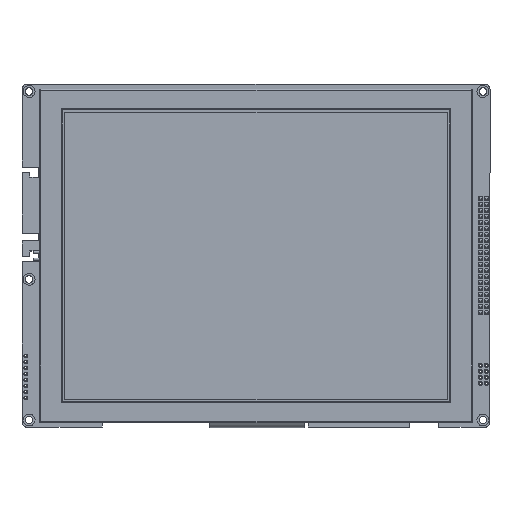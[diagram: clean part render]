
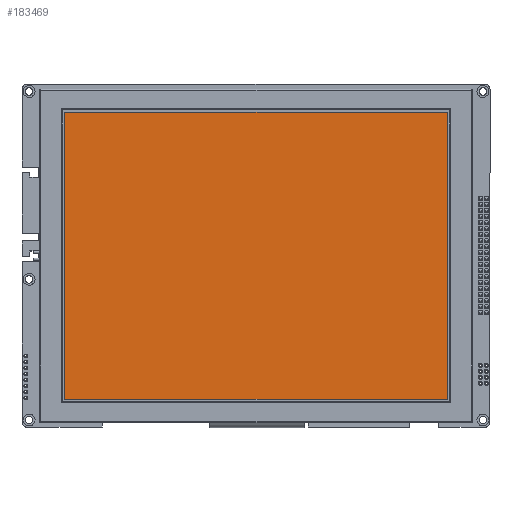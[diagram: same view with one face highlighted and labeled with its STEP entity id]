
A CAD part, top view. The second image highlights one B-rep face of the part: STEP entity #183469.
In plain terms, the highlighted planar face has unit normal (0, 0, 1).
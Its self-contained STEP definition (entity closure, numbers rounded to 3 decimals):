
#9492 = CARTESIAN_POINT ( 'NONE',  ( 0., 60.75, 5.2 ) ) ;
#10092 = FACE_OUTER_BOUND ( 'NONE', #180545, .T. ) ;
#14475 = PLANE ( 'NONE',  #230509 ) ;
#52182 = DIRECTION ( 'NONE',  ( 0., 0., 1. ) ) ;
#53742 = ORIENTED_EDGE ( 'NONE', *, *, #420605, .F. ) ;
#64211 = ORIENTED_EDGE ( 'NONE', *, *, #438286, .F. ) ;
#77144 = DIRECTION ( 'NONE',  ( -1., 0., 0. ) ) ;
#114126 = EDGE_CURVE ( 'NONE', #343438, #259550, #345796, .T. ) ;
#140751 = CARTESIAN_POINT ( 'NONE',  ( 81., 0., 5.2 ) ) ;
#174511 = LINE ( 'NONE', #9492, #322346 ) ;
#180545 = EDGE_LOOP ( 'NONE', ( #53742, #291638, #361387, #64211 ) ) ;
#183469 = ADVANCED_FACE ( 'NONE', ( #10092 ), #14475, .T. ) ;
#210148 = DIRECTION ( 'NONE',  ( 1., 0., 0. ) ) ;
#213197 = CARTESIAN_POINT ( 'NONE',  ( 0., -60.75, 5.2 ) ) ;
#230509 = AXIS2_PLACEMENT_3D ( 'NONE', #393183, #52182, #290906 ) ;
#241468 = VECTOR ( 'NONE', #77144, 1000. ) ;
#247871 = DIRECTION ( 'NONE',  ( 0., 1., 0. ) ) ;
#259550 = VERTEX_POINT ( 'NONE', #281951 ) ;
#276940 = CARTESIAN_POINT ( 'NONE',  ( -81., 0., 5.2 ) ) ;
#281951 = CARTESIAN_POINT ( 'NONE',  ( -81., 60.75, 5.2 ) ) ;
#282365 = LINE ( 'NONE', #213197, #241468 ) ;
#290906 = DIRECTION ( 'NONE',  ( 1., 0., 0. ) ) ;
#291638 = ORIENTED_EDGE ( 'NONE', *, *, #431932, .F. ) ;
#318296 = CARTESIAN_POINT ( 'NONE',  ( 81., -60.75, 5.2 ) ) ;
#322346 = VECTOR ( 'NONE', #210148, 1000. ) ;
#331588 = VECTOR ( 'NONE', #247871, 1000. ) ;
#341641 = CARTESIAN_POINT ( 'NONE',  ( 81., 60.75, 5.2 ) ) ;
#342107 = VERTEX_POINT ( 'NONE', #318296 ) ;
#343438 = VERTEX_POINT ( 'NONE', #398955 ) ;
#345796 = LINE ( 'NONE', #276940, #331588 ) ;
#350051 = DIRECTION ( 'NONE',  ( 0., -1., 0. ) ) ;
#361387 = ORIENTED_EDGE ( 'NONE', *, *, #114126, .F. ) ;
#368459 = VERTEX_POINT ( 'NONE', #341641 ) ;
#373849 = VECTOR ( 'NONE', #350051, 1000. ) ;
#393183 = CARTESIAN_POINT ( 'NONE',  ( 0., 0., 5.2 ) ) ;
#398955 = CARTESIAN_POINT ( 'NONE',  ( -81., -60.75, 5.2 ) ) ;
#410302 = LINE ( 'NONE', #140751, #373849 ) ;
#420605 = EDGE_CURVE ( 'NONE', #368459, #342107, #410302, .T. ) ;
#431932 = EDGE_CURVE ( 'NONE', #259550, #368459, #174511, .T. ) ;
#438286 = EDGE_CURVE ( 'NONE', #342107, #343438, #282365, .T. ) ;
